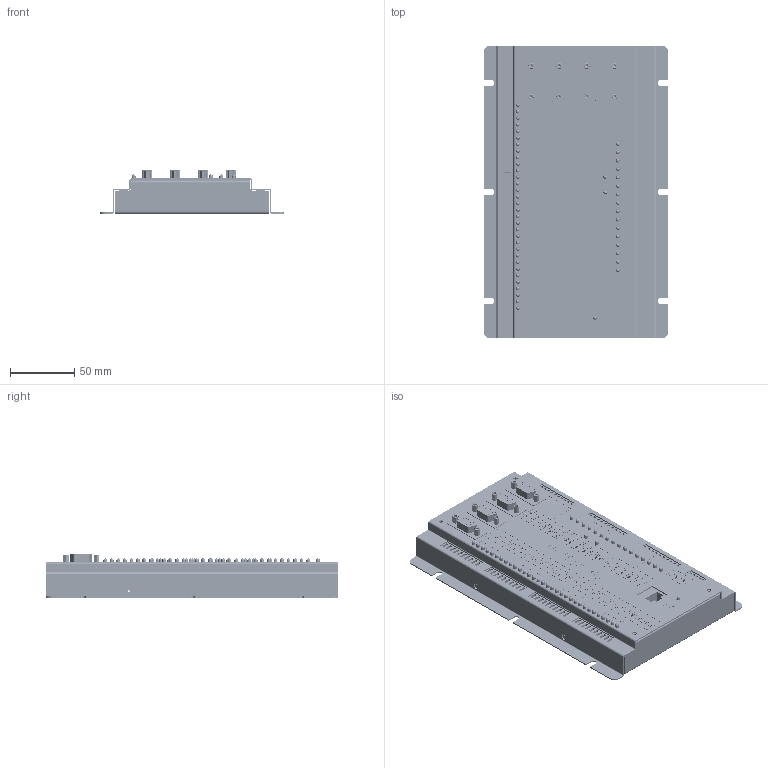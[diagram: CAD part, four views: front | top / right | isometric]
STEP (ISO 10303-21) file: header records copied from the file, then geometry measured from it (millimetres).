
FILE_DESCRIPTION (( 'STEP AP203' ), '1' );
FILE_NAME ('弝橇諷秶ん.STEP', '2025-09-11T10:41:15', ( '' ), ( '' ), 'SwSTEP 2.0', 'SolidWorks 2022', '' );
FILE_SCHEMA (( 'CONFIG_CONTROL_DESIGN' ));
Products named in the file (5): CKXJGZ-01-B001; CKXJGZ-01-B002; PCB电路板; 视觉控制器; 指示灯
Assembly tree (54 placements, depth 2):
  视觉控制器
    CKXJGZ-01-B001
    CKXJGZ-01-B002
    PCB电路板
    指示灯  x51
Bounding box: 143.5 x 228 x 33.8 mm (x, y, z)
Volume: 173035.1 mm3; surface area: 245509.9 mm2
Topology: 54 solids, 62 shells, 10613 faces, 28650 edges, 18971 vertices
Faces by surface type: plane 5955, bspline 3425, cylinder 1103, sphere 102, cone 28
Entity records: 470857 total; most frequent: CARTESIAN_POINT 236158, ORIENTED_EDGE 54836, DIRECTION 35426, EDGE_CURVE 27418, VECTOR 19004, LINE 19004, VERTEX_POINT 18219, EDGE_LOOP 11079
